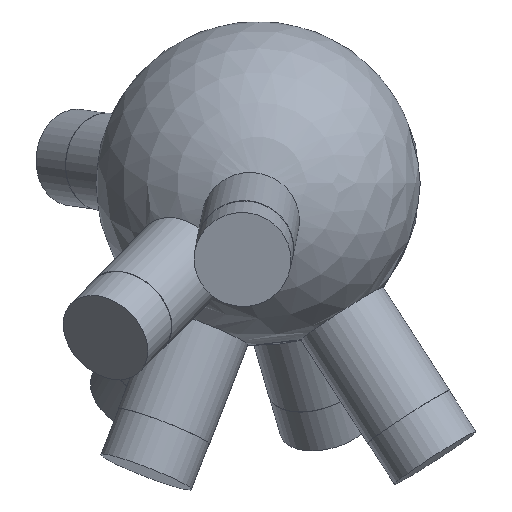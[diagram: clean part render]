
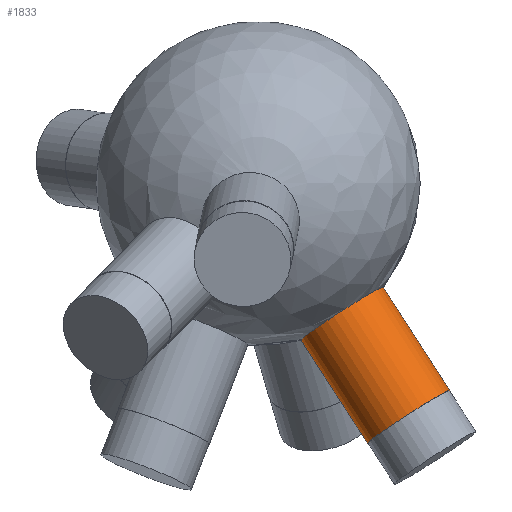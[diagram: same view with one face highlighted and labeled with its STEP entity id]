
A CAD part, top view. The second image highlights one B-rep face of the part: STEP entity #1833.
In plain terms, the highlighted cylindrical face has radius 6 mm (diameter 12 mm), a full revolution.
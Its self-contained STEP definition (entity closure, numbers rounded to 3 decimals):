
#33 = SPHERICAL_SURFACE('',#34,20.);
#34 = AXIS2_PLACEMENT_3D('',#35,#36,#37);
#35 = CARTESIAN_POINT('',(0.,0.,0.));
#36 = DIRECTION('',(0.,0.,1.));
#37 = DIRECTION('',(1.,0.,-0.));
#1217 = EDGE_CURVE('',#1218,#1218,#1220,.T.);
#1218 = VERTEX_POINT('',#1219);
#1219 = CARTESIAN_POINT('',(5.286,-19.267,
    0.926));
#1220 = SURFACE_CURVE('',#1221,(#1226,#1288),.PCURVE_S1.);
#1221 = CIRCLE('',#1222,6.);
#1222 = AXIS2_PLACEMENT_3D('',#1223,#1224,#1225);
#1223 = CARTESIAN_POINT('',(10.328,-16.015,
    0.926));
#1224 = DIRECTION('',(0.541,-0.839,0.049)
  );
#1225 = DIRECTION('',(0.84,0.542,0.)
  );
#1226 = PCURVE('',#33,#1227);
#1227 = DEFINITIONAL_REPRESENTATION('',(#1228),#1287);
#1228 = B_SPLINE_CURVE_WITH_KNOTS('',8,(#1229,#1230,#1231,#1232,#1233,
    #1234,#1235,#1236,#1237,#1238,#1239,#1240,#1241,#1242,#1243,#1244,
    #1245,#1246,#1247,#1248,#1249,#1250,#1251,#1252,#1253,#1254,#1255,
    #1256,#1257,#1258,#1259,#1260,#1261,#1262,#1263,#1264,#1265,#1266,
    #1267,#1268,#1269,#1270,#1271,#1272,#1273,#1274,#1275,#1276,#1277,
    #1278,#1279,#1280,#1281,#1282,#1283,#1284,#1285,#1286),
  .UNSPECIFIED.,.F.,.F.,(9,7,7,7,7,7,7,7,9),(3.142,
    3.927,4.614,5.216,6.268,
    7.057,7.649,8.537,9.425),
  .UNSPECIFIED.);
#1229 = CARTESIAN_POINT('',(4.98,0.046));
#1230 = CARTESIAN_POINT('',(4.981,0.017));
#1231 = CARTESIAN_POINT('',(4.984,-0.013));
#1232 = CARTESIAN_POINT('',(4.991,-0.042));
#1233 = CARTESIAN_POINT('',(5.001,-0.07));
#1234 = CARTESIAN_POINT('',(5.013,-0.097));
#1235 = CARTESIAN_POINT('',(5.029,-0.122));
#1236 = CARTESIAN_POINT('',(5.048,-0.145));
#1237 = CARTESIAN_POINT('',(5.087,-0.185));
#1238 = CARTESIAN_POINT('',(5.107,-0.202));
#1239 = CARTESIAN_POINT('',(5.129,-0.216));
#1240 = CARTESIAN_POINT('',(5.152,-0.229));
#1241 = CARTESIAN_POINT('',(5.177,-0.239));
#1242 = CARTESIAN_POINT('',(5.202,-0.247));
#1243 = CARTESIAN_POINT('',(5.228,-0.252));
#1244 = CARTESIAN_POINT('',(5.278,-0.257));
#1245 = CARTESIAN_POINT('',(5.301,-0.257));
#1246 = CARTESIAN_POINT('',(5.325,-0.256));
#1247 = CARTESIAN_POINT('',(5.348,-0.252));
#1248 = CARTESIAN_POINT('',(5.371,-0.246));
#1249 = CARTESIAN_POINT('',(5.393,-0.238));
#1250 = CARTESIAN_POINT('',(5.414,-0.229));
#1251 = CARTESIAN_POINT('',(5.469,-0.198));
#1252 = CARTESIAN_POINT('',(5.501,-0.174));
#1253 = CARTESIAN_POINT('',(5.529,-0.144));
#1254 = CARTESIAN_POINT('',(5.552,-0.111));
#1255 = CARTESIAN_POINT('',(5.57,-0.075));
#1256 = CARTESIAN_POINT('',(5.582,-0.037));
#1257 = CARTESIAN_POINT('',(5.589,0.002));
#1258 = CARTESIAN_POINT('',(5.591,0.071));
#1259 = CARTESIAN_POINT('',(5.589,0.101));
#1260 = CARTESIAN_POINT('',(5.583,0.13));
#1261 = CARTESIAN_POINT('',(5.574,0.159));
#1262 = CARTESIAN_POINT('',(5.563,0.187));
#1263 = CARTESIAN_POINT('',(5.548,0.213));
#1264 = CARTESIAN_POINT('',(5.53,0.237));
#1265 = CARTESIAN_POINT('',(5.494,0.275));
#1266 = CARTESIAN_POINT('',(5.477,0.29));
#1267 = CARTESIAN_POINT('',(5.458,0.304));
#1268 = CARTESIAN_POINT('',(5.438,0.316));
#1269 = CARTESIAN_POINT('',(5.418,0.326));
#1270 = CARTESIAN_POINT('',(5.396,0.335));
#1271 = CARTESIAN_POINT('',(5.373,0.342));
#1272 = CARTESIAN_POINT('',(5.316,0.354));
#1273 = CARTESIAN_POINT('',(5.28,0.357));
#1274 = CARTESIAN_POINT('',(5.244,0.355));
#1275 = CARTESIAN_POINT('',(5.208,0.349));
#1276 = CARTESIAN_POINT('',(5.174,0.338));
#1277 = CARTESIAN_POINT('',(5.142,0.323));
#1278 = CARTESIAN_POINT('',(5.113,0.304));
#1279 = CARTESIAN_POINT('',(5.061,0.261));
#1280 = CARTESIAN_POINT('',(5.038,0.236));
#1281 = CARTESIAN_POINT('',(5.018,0.208));
#1282 = CARTESIAN_POINT('',(5.002,0.178));
#1283 = CARTESIAN_POINT('',(4.991,0.146));
#1284 = CARTESIAN_POINT('',(4.983,0.113));
#1285 = CARTESIAN_POINT('',(4.98,0.08));
#1286 = CARTESIAN_POINT('',(4.98,0.046));
#1287 = ( GEOMETRIC_REPRESENTATION_CONTEXT(2) 
PARAMETRIC_REPRESENTATION_CONTEXT() REPRESENTATION_CONTEXT('2D SPACE',''
  ) );
#1288 = PCURVE('',#1289,#1294);
#1289 = CYLINDRICAL_SURFACE('',#1290,6.);
#1290 = AXIS2_PLACEMENT_3D('',#1291,#1292,#1293);
#1291 = CARTESIAN_POINT('',(0.,0.,0.));
#1292 = DIRECTION('',(0.541,-0.839,0.049)
  );
#1293 = DIRECTION('',(-0.84,-0.542,0.
    ));
#1294 = DEFINITIONAL_REPRESENTATION('',(#1295),#1299);
#1295 = LINE('',#1296,#1297);
#1296 = CARTESIAN_POINT('',(-3.142,19.079));
#1297 = VECTOR('',#1298,1.);
#1298 = DIRECTION('',(1.,0.));
#1299 = ( GEOMETRIC_REPRESENTATION_CONTEXT(2) 
PARAMETRIC_REPRESENTATION_CONTEXT() REPRESENTATION_CONTEXT('2D SPACE',''
  ) );
#1833 = ADVANCED_FACE('',(#1834),#1289,.T.);
#1834 = FACE_BOUND('',#1835,.T.);
#1835 = EDGE_LOOP('',(#1836,#1859,#1886,#1887));
#1836 = ORIENTED_EDGE('',*,*,#1837,.T.);
#1837 = EDGE_CURVE('',#1218,#1838,#1840,.T.);
#1838 = VERTEX_POINT('',#1839);
#1839 = CARTESIAN_POINT('',(13.469,-31.954,
    1.659));
#1840 = SEAM_CURVE('',#1841,(#1845,#1852),.PCURVE_S1.);
#1841 = LINE('',#1842,#1843);
#1842 = CARTESIAN_POINT('',(-5.042,-3.252,
    0.));
#1843 = VECTOR('',#1844,1.);
#1844 = DIRECTION('',(0.541,-0.839,0.049)
  );
#1845 = PCURVE('',#1289,#1846);
#1846 = DEFINITIONAL_REPRESENTATION('',(#1847),#1851);
#1847 = LINE('',#1848,#1849);
#1848 = CARTESIAN_POINT('',(6.283,-0.));
#1849 = VECTOR('',#1850,1.);
#1850 = DIRECTION('',(0.,1.));
#1851 = ( GEOMETRIC_REPRESENTATION_CONTEXT(2) 
PARAMETRIC_REPRESENTATION_CONTEXT() REPRESENTATION_CONTEXT('2D SPACE',''
  ) );
#1852 = PCURVE('',#1289,#1853);
#1853 = DEFINITIONAL_REPRESENTATION('',(#1854),#1858);
#1854 = LINE('',#1855,#1856);
#1855 = CARTESIAN_POINT('',(0.,-0.));
#1856 = VECTOR('',#1857,1.);
#1857 = DIRECTION('',(0.,1.));
#1858 = ( GEOMETRIC_REPRESENTATION_CONTEXT(2) 
PARAMETRIC_REPRESENTATION_CONTEXT() REPRESENTATION_CONTEXT('2D SPACE',''
  ) );
#1859 = ORIENTED_EDGE('',*,*,#1860,.F.);
#1860 = EDGE_CURVE('',#1838,#1838,#1861,.T.);
#1861 = SURFACE_CURVE('',#1862,(#1867,#1874),.PCURVE_S1.);
#1862 = CIRCLE('',#1863,6.);
#1863 = AXIS2_PLACEMENT_3D('',#1864,#1865,#1866);
#1864 = CARTESIAN_POINT('',(18.511,-28.702,
    1.659));
#1865 = DIRECTION('',(0.541,-0.839,0.049)
  );
#1866 = DIRECTION('',(-0.84,-0.542,
    0.));
#1867 = PCURVE('',#1289,#1868);
#1868 = DEFINITIONAL_REPRESENTATION('',(#1869),#1873);
#1869 = LINE('',#1870,#1871);
#1870 = CARTESIAN_POINT('',(0.,34.194));
#1871 = VECTOR('',#1872,1.);
#1872 = DIRECTION('',(1.,0.));
#1873 = ( GEOMETRIC_REPRESENTATION_CONTEXT(2) 
PARAMETRIC_REPRESENTATION_CONTEXT() REPRESENTATION_CONTEXT('2D SPACE',''
  ) );
#1874 = PCURVE('',#1875,#1880);
#1875 = PLANE('',#1876);
#1876 = AXIS2_PLACEMENT_3D('',#1877,#1878,#1879);
#1877 = CARTESIAN_POINT('',(18.511,-28.702,
    1.659));
#1878 = DIRECTION('',(0.541,-0.839,0.049)
  );
#1879 = DIRECTION('',(-0.84,-0.542,0.
    ));
#1880 = DEFINITIONAL_REPRESENTATION('',(#1881),#1885);
#1881 = CIRCLE('',#1882,6.);
#1882 = AXIS2_PLACEMENT_2D('',#1883,#1884);
#1883 = CARTESIAN_POINT('',(0.,0.));
#1884 = DIRECTION('',(1.,0.));
#1885 = ( GEOMETRIC_REPRESENTATION_CONTEXT(2) 
PARAMETRIC_REPRESENTATION_CONTEXT() REPRESENTATION_CONTEXT('2D SPACE',''
  ) );
#1886 = ORIENTED_EDGE('',*,*,#1837,.F.);
#1887 = ORIENTED_EDGE('',*,*,#1217,.T.);
